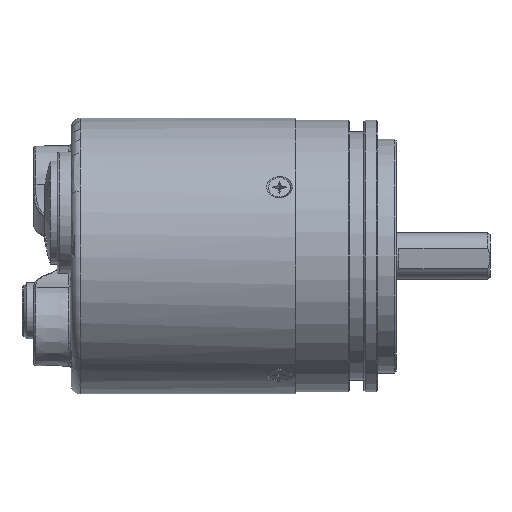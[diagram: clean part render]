
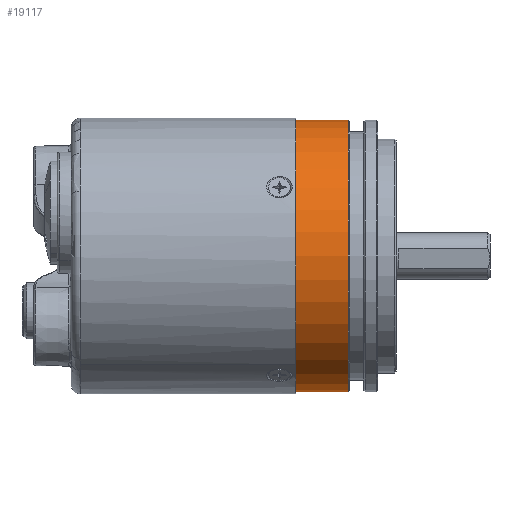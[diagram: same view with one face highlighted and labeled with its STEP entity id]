
A CAD part, front view. The second image highlights one B-rep face of the part: STEP entity #19117.
In plain terms, the highlighted cylindrical face has radius 29 mm (diameter 58 mm), a partial arc.
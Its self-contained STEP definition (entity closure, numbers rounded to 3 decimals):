
#36 = CARTESIAN_POINT ( 'NONE',  ( 7.5, 0., -29. ) ) ;
#5061 = CARTESIAN_POINT ( 'NONE',  ( 7.5, 0., 0. ) ) ;
#12382 = DIRECTION ( 'NONE',  ( 0., 0., 1. ) ) ;
#13100 = EDGE_CURVE ( 'NONE', #22728, #67035, #68130, .T. ) ;
#14309 = ORIENTED_EDGE ( 'NONE', *, *, #13100, .F. ) ;
#15245 = DIRECTION ( 'NONE',  ( -1., 0., 0. ) ) ;
#16339 = DIRECTION ( 'NONE',  ( -1., 0., 0. ) ) ;
#19117 = ADVANCED_FACE ( 'NONE', ( #87811 ), #28070, .T. ) ;
#22728 = VERTEX_POINT ( 'NONE', #36 ) ;
#24512 = AXIS2_PLACEMENT_3D ( 'NONE', #59330, #16339, #66602 ) ;
#25526 = VECTOR ( 'NONE', #54655, 1000. ) ;
#26676 = EDGE_CURVE ( 'NONE', #40861, #53362, #47054, .T. ) ;
#28070 = CYLINDRICAL_SURFACE ( 'NONE', #75780, 29. ) ;
#32028 = CARTESIAN_POINT ( 'NONE',  ( 18.7, 0., 29. ) ) ;
#32976 = CARTESIAN_POINT ( 'NONE',  ( 0., 0., -29. ) ) ;
#36594 = EDGE_LOOP ( 'NONE', ( #87181, #63078, #58215, #14309 ) ) ;
#39924 = CARTESIAN_POINT ( 'NONE',  ( 18.7, 0., -29. ) ) ;
#40861 = VERTEX_POINT ( 'NONE', #39924 ) ;
#42242 = DIRECTION ( 'NONE',  ( 0., 0., 1. ) ) ;
#44691 = LINE ( 'NONE', #32976, #25526 ) ;
#46480 = VECTOR ( 'NONE', #15245, 1000. ) ;
#47054 = CIRCLE ( 'NONE', #24512, 29. ) ;
#49469 = DIRECTION ( 'NONE',  ( -1., 0., 0. ) ) ;
#53362 = VERTEX_POINT ( 'NONE', #32028 ) ;
#54198 = EDGE_CURVE ( 'NONE', #53362, #67035, #82491, .T. ) ;
#54655 = DIRECTION ( 'NONE',  ( -1., 0., 0. ) ) ;
#55394 = DIRECTION ( 'NONE',  ( -1., 0., 0. ) ) ;
#58215 = ORIENTED_EDGE ( 'NONE', *, *, #54198, .T. ) ;
#59330 = CARTESIAN_POINT ( 'NONE',  ( 18.7, 0., 0. ) ) ;
#62455 = AXIS2_PLACEMENT_3D ( 'NONE', #5061, #55394, #12382 ) ;
#63078 = ORIENTED_EDGE ( 'NONE', *, *, #26676, .T. ) ;
#63579 = CARTESIAN_POINT ( 'NONE',  ( 0., 0., 0. ) ) ;
#65493 = CARTESIAN_POINT ( 'NONE',  ( 0., 0., 29. ) ) ;
#66602 = DIRECTION ( 'NONE',  ( 0., 0., 1. ) ) ;
#67035 = VERTEX_POINT ( 'NONE', #68583 ) ;
#68130 = CIRCLE ( 'NONE', #62455, 29. ) ;
#68583 = CARTESIAN_POINT ( 'NONE',  ( 7.5, 0., 29. ) ) ;
#75780 = AXIS2_PLACEMENT_3D ( 'NONE', #63579, #49469, #42242 ) ;
#82491 = LINE ( 'NONE', #65493, #46480 ) ;
#87181 = ORIENTED_EDGE ( 'NONE', *, *, #92616, .F. ) ;
#87811 = FACE_OUTER_BOUND ( 'NONE', #36594, .T. ) ;
#92616 = EDGE_CURVE ( 'NONE', #40861, #22728, #44691, .T. ) ;
